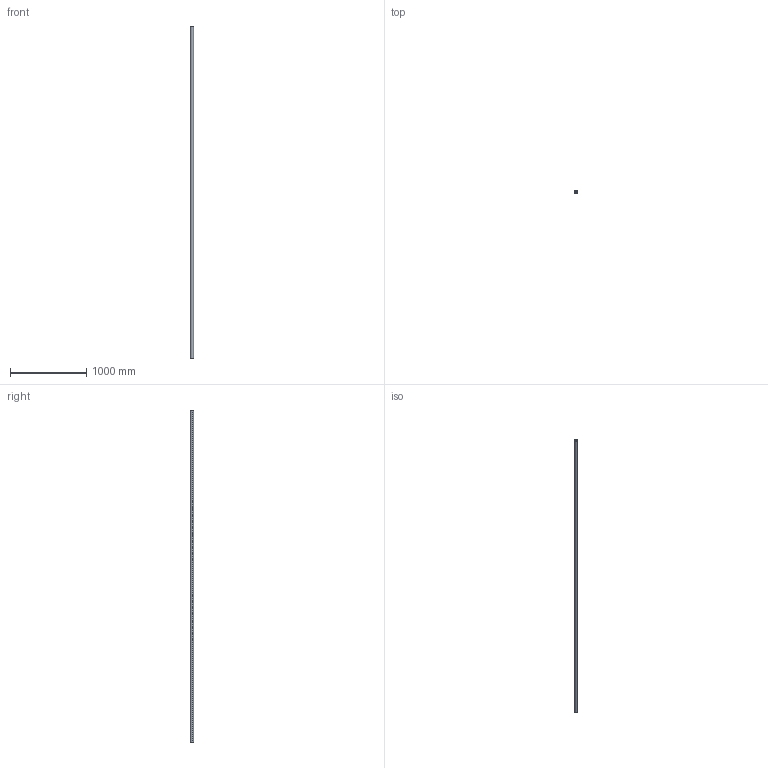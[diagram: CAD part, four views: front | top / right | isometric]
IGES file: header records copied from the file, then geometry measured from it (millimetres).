
Start section: SolidWorks IGES file using analytic representation for surfaces
Global section: file name: C:\Users\IanO\Desktop\L1771_v2\L1771.40_v2\L1771.40_v2_20230705_IGES\L1771.40-4350.igs; native system: SolidWorks 2019; preprocessor: SolidWorks 2019; author: IanO; date: 230705.162447; units: millimetre
Bounding box: 40 x 40 x 4350 mm (x, y, z)
Surface area: 930564.9 mm2 (no closed solid volume)
Topology: 0 solids, 0 shells, 6 faces, 272 edges, 272 vertices
Faces by surface type: revolution 4, bspline 2
